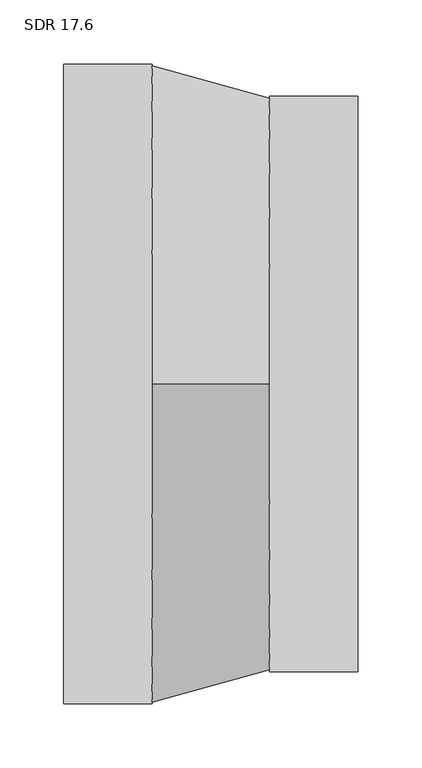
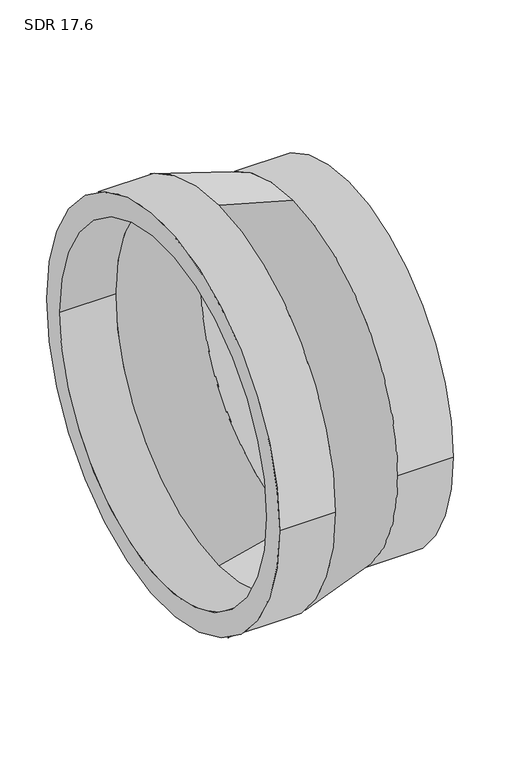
"""IFC4 building model written with IfcOpenShell, lengths in millimetres: pipe fitting geometry, Aquatherm - Reducing Coupling Combined - METRIC : SDR 17.6."""

from ifc_helpers import new_model, si_unit, frame, origin, place, context, project, spatial, polyline, circle_curve, source, transform, mapped, element, save
from ifc_brep_helpers import plane_surface, cylinder_surface, revolved_surface, advanced_brep


def sdr_17_6_777e5b87(model_context):
    return source(origin(), model_context, "Body", "AdvancedBrep", [
        advanced_brep(
        [(-115.062, -250.19, 0.0), (-115.062, 250.19, 0.0), (-115.062, -221.7593182, 0.0), (-115.062, 221.7593182, 0.0), (-46.0248, 221.7593182, 0.0), (-46.0248, 0.0, 221.7593182), (-46.0248, -221.7593182, 0.0), (-46.0248, 0.0, -221.7593182), (-46.0248, 250.19, 0.0), (-46.0248, 0.0, -250.19), (-46.0248, -250.19, 0.0), (-46.0248, 0.0, 250.19), (115.062, -224.79, 0.0), (115.062, 224.79, 0.0), (115.062, -199.2456818, 0.0), (115.062, 199.2456818, 0.0), (46.0248, -224.79, 0.0), (46.0248, 0.0, -224.79), (46.0248, 224.79, 0.0), (46.0248, 0.0, 224.79), (46.0248, -199.2456818, 0.0), (46.0248, 0.0, 199.2456818), (46.0248, 199.2456818, 0.0), (46.0248, 0.0, -199.2456818)],
        [
            (0, 1, circle_curve(frame((-115.062, 0.0, 0.0), z_axis=(-1.0, 0.0, 0.0), x_axis=(0.0, 1.0, 0.0)), 250.19)),
            (1, 0, circle_curve(frame((-115.062, 0.0, 0.0), z_axis=(-1.0, 0.0, 0.0), x_axis=(0.0, 1.0, 0.0)), 250.19)),
            (2, 3, circle_curve(frame((-115.062, 0.0, 0.0), z_axis=(1.0, 0.0, 0.0), x_axis=(0.0, 1.0, 0.0)), 221.7593182)),
            (3, 2, circle_curve(frame((-115.062, 0.0, 0.0), z_axis=(1.0, 0.0, 0.0), x_axis=(0.0, 1.0, 0.0)), 221.7593182)),
            (3, 4),
            (4, 5, circle_curve(frame((-46.0248, 0.0, 0.0), z_axis=(1.0, 0.0, 0.0), x_axis=(0.0, 1.0, 0.0)), 221.7593182)),
            (5, 6, circle_curve(frame((-46.0248, 0.0, 0.0), z_axis=(1.0, 0.0, 0.0), x_axis=(0.0, 1.0, 0.0)), 221.7593182)),
            (6, 2),
            (6, 7, circle_curve(frame((-46.0248, 0.0, 0.0), z_axis=(1.0, 0.0, 0.0), x_axis=(0.0, 1.0, 0.0)), 221.7593182)),
            (7, 4, circle_curve(frame((-46.0248, 0.0, 0.0), z_axis=(1.0, 0.0, 0.0), x_axis=(0.0, 1.0, 0.0)), 221.7593182)),
            (1, 8),
            (8, 9, circle_curve(frame((-46.0248, 0.0, 0.0), z_axis=(-1.0, 0.0, 0.0), x_axis=(0.0, 1.0, 0.0)), 250.19)),
            (9, 10, circle_curve(frame((-46.0248, 0.0, 0.0), z_axis=(-1.0, 0.0, 0.0), x_axis=(0.0, 1.0, 0.0)), 250.19)),
            (10, 0),
            (10, 11, circle_curve(frame((-46.0248, 0.0, 0.0), z_axis=(-1.0, 0.0, 0.0), x_axis=(0.0, 1.0, 0.0)), 250.19)),
            (11, 8, circle_curve(frame((-46.0248, 0.0, 0.0), z_axis=(-1.0, 0.0, 0.0), x_axis=(0.0, 1.0, 0.0)), 250.19)),
            (12, 13, circle_curve(frame((115.062, 0.0, 0.0), z_axis=(1.0, 0.0, 0.0), x_axis=(0.0, 1.0, 0.0)), 224.79)),
            (13, 12, circle_curve(frame((115.062, 0.0, 0.0), z_axis=(1.0, 0.0, 0.0), x_axis=(0.0, 1.0, 0.0)), 224.79)),
            (14, 15, circle_curve(frame((115.062, 0.0, 0.0), z_axis=(-1.0, 0.0, 0.0), x_axis=(0.0, 1.0, 0.0)), 199.2456818)),
            (15, 14, circle_curve(frame((115.062, 0.0, 0.0), z_axis=(-1.0, 0.0, 0.0), x_axis=(0.0, 1.0, 0.0)), 199.2456818)),
            (12, 16),
            (16, 17, circle_curve(frame((46.0248, 0.0, 0.0), z_axis=(1.0, 0.0, 0.0), x_axis=(0.0, 1.0, 0.0)), 224.79)),
            (17, 18, circle_curve(frame((46.0248, 0.0, 0.0), z_axis=(1.0, 0.0, 0.0), x_axis=(0.0, 1.0, 0.0)), 224.79)),
            (18, 13),
            (18, 19, circle_curve(frame((46.0248, 0.0, 0.0), z_axis=(1.0, 0.0, 0.0), x_axis=(0.0, 1.0, 0.0)), 224.79)),
            (19, 16, circle_curve(frame((46.0248, 0.0, 0.0), z_axis=(1.0, 0.0, 0.0), x_axis=(0.0, 1.0, 0.0)), 224.79)),
            (14, 20),
            (20, 21, circle_curve(frame((46.0248, 0.0, 0.0), z_axis=(-1.0, 0.0, 0.0), x_axis=(0.0, 1.0, 0.0)), 199.2456818)),
            (21, 22, circle_curve(frame((46.0248, 0.0, 0.0), z_axis=(-1.0, 0.0, 0.0), x_axis=(0.0, 1.0, 0.0)), 199.2456818)),
            (22, 15),
            (22, 23, circle_curve(frame((46.0248, 0.0, 0.0), z_axis=(-1.0, 0.0, 0.0), x_axis=(0.0, 1.0, 0.0)), 199.2456818)),
            (23, 20, circle_curve(frame((46.0248, 0.0, 0.0), z_axis=(-1.0, 0.0, 0.0), x_axis=(0.0, 1.0, 0.0)), 199.2456818)),
            (11, 19),
            (17, 9),
            (21, 5),
            (7, 23),
        ],
        [
            plane_surface(frame((-115.062, 221.7593182, 0.0), z_axis=(-1.0, 0.0, 0.0), x_axis=(0.0, 0.0, 1.0))),
            revolved_surface(polyline([(-115.062, 221.7593182, 0.0), (-46.0248, 221.7593182, 0.0)]), (-115.062, 0.0, 0.0), (-1.0, 0.0, 0.0)),
            cylinder_surface(frame((0.0, 0.0, 0.0), z_axis=(1.0, 0.0, 0.0), x_axis=(0.0, 1.0, 0.0)), 250.19),
            plane_surface(frame((115.062, 224.79, 0.0), z_axis=(1.0, 0.0, 0.0), x_axis=(0.0, 0.0, 1.0))),
            cylinder_surface(frame((46.0248, 0.0, 0.0), z_axis=(1.0, 0.0, 0.0), x_axis=(0.0, 1.0, 0.0)), 224.79),
            revolved_surface(polyline([(46.0248, 199.2456818, 0.0), (115.062, 199.2456818, 0.0)]), (0.0, 0.0, 0.0), (-1.0, 0.0, 0.0)),
            revolved_surface(polyline([(46.0248, 0.0, 224.79), (-46.0248, 0.0, 250.19)]), (-690.3215384, 0.0, 0.0), (-1.0, 0.0, 0.0)),
            revolved_surface(polyline([(-46.0248, 0.0, 221.7593182), (46.0248, 0.0, 199.2456818)]), (-690.3215384, 0.0, 0.0), (-1.0, 0.0, 0.0)),
        ],
        [
            (0, [[1, 2], [3, 4]]),
            (1, [[-4, 5, 6, 7, 8]]),
            (1, [[-3, -8, 9, 10, -5]]),
            (2, [[-2, 11, 12, 13, 14]]),
            (2, [[-1, -14, 15, 16, -11]]),
            (3, [[17, 18], [19, 20]]),
            (4, [[-17, 21, 22, 23, 24]]),
            (4, [[-18, -24, 25, 26, -21]]),
            (5, [[-19, 27, 28, 29, 30]]),
            (5, [[-20, -30, 31, 32, -27]]),
            (6, [[33, -25, -23, 34, -12, -16]]),
            (6, [[-33, -15, -13, -34, -22, -26]]),
            (7, [[35, -6, -10, 36, -31, -29]]),
            (7, [[-35, -28, -32, -36, -9, -7]]),
        ],
    ),
    ])


if __name__ == "__main__":
    model = new_model("IFC4")
    model_context = context("Model", 3, world=origin())
    ifc_project = project(units=[si_unit("LENGTHUNIT", "METRE", prefix="MILLI")], contexts=[model_context])
    site = spatial("IfcSite", under=ifc_project)
    building = spatial("IfcBuilding", under=site)
    placement = place(None, origin())
    sdr_17_6_shape = sdr_17_6_777e5b87(model_context)
    element("IfcPipeFitting", 1, ObjectType="Aquatherm - Reducing Coupling Combined - METRIC : SDR 17.6", at=placement, inside=building, context=model_context, shape_type="MappedRepresentation", body=[
        mapped(sdr_17_6_shape, transform((0.0, 0.0, 0.0), x_axis=(1.0, 0.0, 0.0), y_axis=(0.0, 1.0, 0.0), z_axis=(0.0, 0.0, 1.0))),
    ])
    save(model, "model.ifc")
